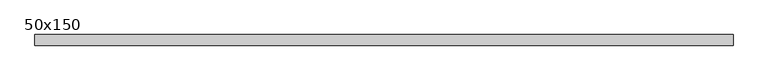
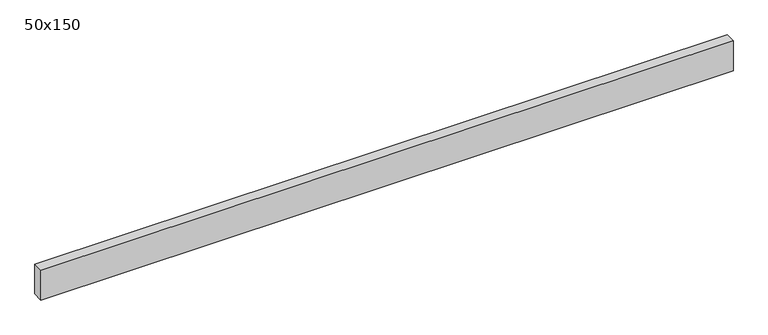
"""IFC4 building model written with IfcOpenShell, lengths in millimetres: beam geometry, Graded Timber : 50x150."""

from ifc_helpers import new_model, si_unit, frame, origin, place, context, project, spatial, polyline, outline, extrude, source, transform, mapped, element, save


def beam_50x150_a9835063(model_context):
    return source(origin(), model_context, "Body", "SweptSolid", [
        extrude(outline(polyline([(1644.0, 25.0), (1644.0, -25.0), (-1644.0, -25.0), (-1644.0, 25.0), (1644.0, 25.0)])), frame((0.0, 0.0, -75.0), z_axis=(0.0, 0.0, 1.0), x_axis=(1.0, 0.0, 0.0)), (0.0, 0.0, 1.0), 150.0),
    ])


if __name__ == "__main__":
    model = new_model("IFC4")
    model_context = context("Model", 3, world=origin())
    ifc_project = project(units=[si_unit("LENGTHUNIT", "METRE", prefix="MILLI")], contexts=[model_context])
    site = spatial("IfcSite", under=ifc_project)
    building = spatial("IfcBuilding", under=site)
    placement = place(None, origin())
    beam_50x150_shape = beam_50x150_a9835063(model_context)
    element("IfcBeam", 1, ObjectType="Graded Timber : 50x150", at=placement, inside=building, context=model_context, shape_type="MappedRepresentation", body=[
        mapped(beam_50x150_shape, transform((0.0, 0.0, 0.0), x_axis=(1.0, 0.0, 0.0), y_axis=(0.0, 1.0, 0.0), z_axis=(0.0, 0.0, 1.0))),
    ])
    save(model, "model.ifc")
